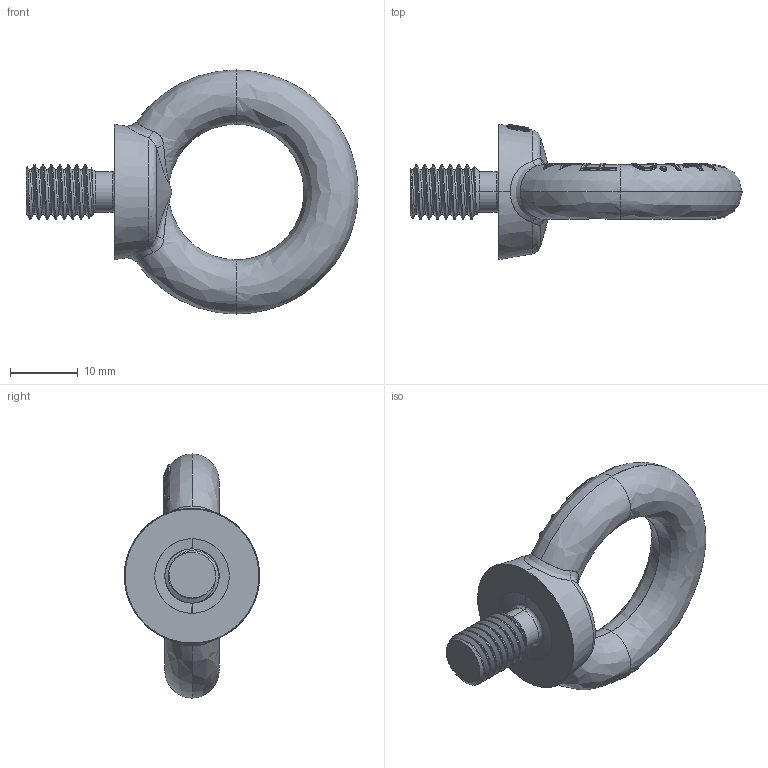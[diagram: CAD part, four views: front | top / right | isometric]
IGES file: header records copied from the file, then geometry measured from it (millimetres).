
Start section: SolidWorks IGES file using analytic representation for surfaces
Global section: file name: C:\Users\Brenton\Documents\Townley\IS Eye Bolt\M08\GPEBM08.IGS; native system: SolidWorks 2012; preprocessor: SolidWorks 2012; author: Brenton; date: 141218.135904; units: millimetre
Bounding box: 48.97 x 19.96 x 36 mm (x, y, z)
Surface area: 3135.9 mm2 (no closed solid volume)
Topology: 0 solids, 0 shells, 363 faces, 4787 edges, 4784 vertices
Faces by surface type: bspline 332, revolution 31
